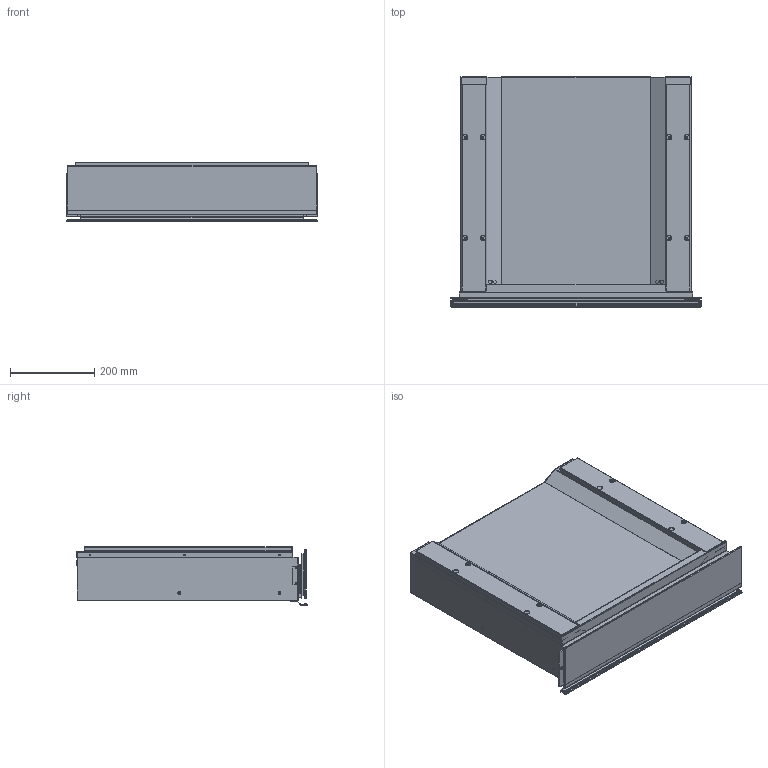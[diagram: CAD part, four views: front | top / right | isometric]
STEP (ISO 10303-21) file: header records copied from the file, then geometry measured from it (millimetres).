
FILE_DESCRIPTION(/* description */ (''),/* implementation_level */ '2;1');
FILE_NAME(/* name */ '3D001_Warming-Drawers_Mythos_FMY-14-DRW',/* time_stamp */ '2024-02-07T14:08:58+01:00',/* author */ (''),/* organization */ (''),/* preprocessor_version */ 'ST-DEVELOPER v19.2',/* originating_system */ 'Rhino 8.3',/* authorisation */ '');
FILE_SCHEMA (('CONFIG_CONTROL_DESIGN'));
Length unit declared in the file: millimetre
Products named in the file (6): Document; Blocco 03; 20245640_ipt_000; 20245644_ipt_000; Blocco 04; 20245636_ipt_000
Bounding box: 596 x 547 x 141.75 mm (x, y, z)
Volume: 670789.2 mm3; surface area: 2906091.8 mm2
Topology: 7 solids, 23 shells, 1089 faces, 2970 edges, 1816 vertices
Faces by surface type: plane 553, cylinder 417, bspline 119
Full cylindrical faces by diameter (mm): 0.1 x1, 2 x2, 3.2 x36, 3.4 x4, 4 x49, 4.5 x8, 5 x1, 5.5 x2, 6 x4, 9 x1, 10 x4, 13 x8
Entity records: 42498 total; most frequent: CARTESIAN_POINT 18326, ORIENTED_EDGE 5746, EDGE_CURVE 2957, DIRECTION 2822, B_SPLINE_CURVE_WITH_KNOTS 1973, AXIS2_PLACEMENT_3D 1896, VERTEX_POINT 1816, EDGE_LOOP 1365
